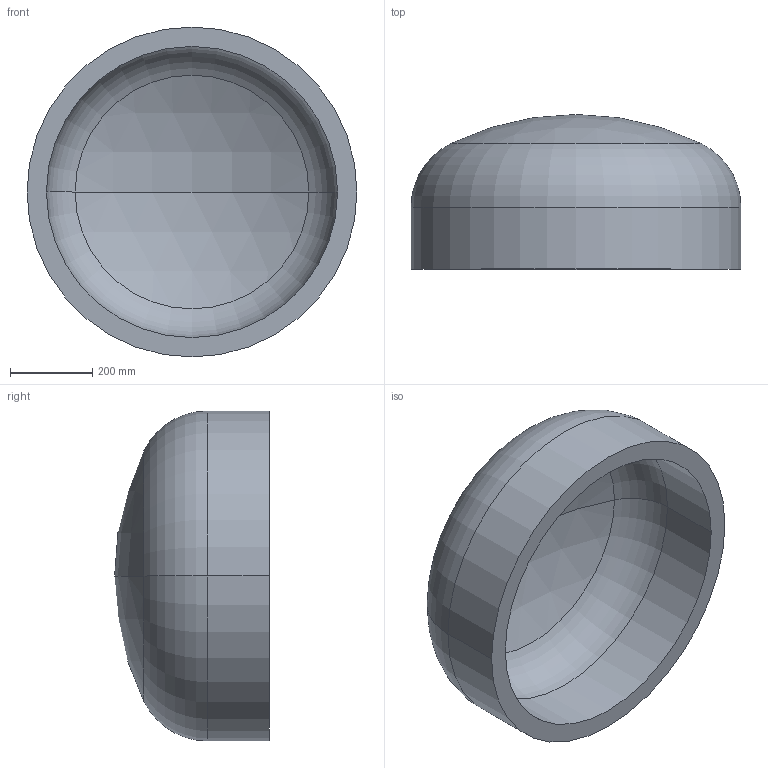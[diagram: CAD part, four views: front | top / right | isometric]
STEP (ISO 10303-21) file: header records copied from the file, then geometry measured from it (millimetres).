
FILE_DESCRIPTION (( 'STEP AP203' ), '1' );
FILE_NAME ('DIN 28013 Korbbogenform_-_Boden DIN 28013 - 800 x 150 - I - s=47.step', '2016-07-01T08:17:49', ( '' ), ( '' ), 'SwSTEP 2.0', 'SolidWorks 2013', '' );
FILE_SCHEMA (( 'CONFIG_CONTROL_DESIGN' ));
Length unit declared in the file: millimetre
Products named in the file (1): DIN 28013 Korbbogenform_-_Boden DIN 28013 - 800 x 150 - I - s=47
Bounding box: 800 x 375.22 x 800 mm (x, y, z)
Volume: 47125973.6 mm3; surface area: 2121170.9 mm2
Topology: 1 solids, 1 shells, 13 faces, 24 edges, 14 vertices
Faces by surface type: torus 4, cylinder 4, sphere 4, plane 1
Entity records: 407 total; most frequent: DIRECTION 72, CARTESIAN_POINT 52, ORIENTED_EDGE 48, AXIS2_PLACEMENT_3D 34, EDGE_CURVE 24, CIRCLE 20, VERTEX_POINT 14, EDGE_LOOP 14
